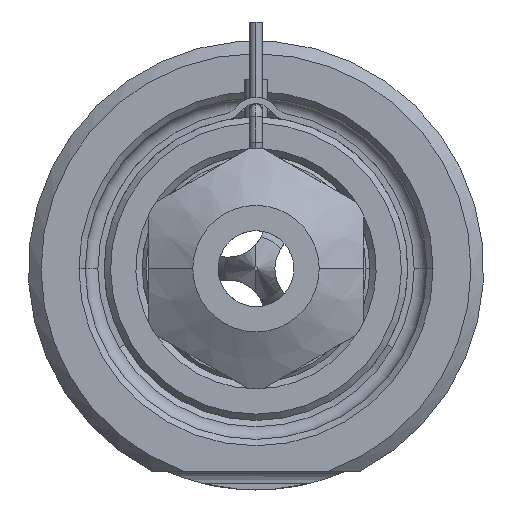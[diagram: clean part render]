
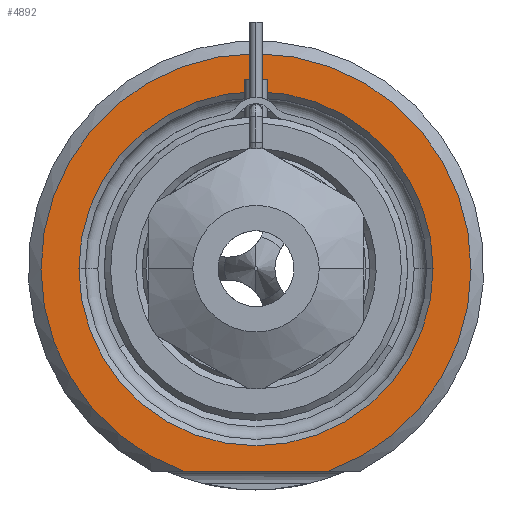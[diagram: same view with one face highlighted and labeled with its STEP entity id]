
A CAD part, front view. The second image highlights one B-rep face of the part: STEP entity #4892.
In plain terms, the highlighted planar face has unit normal (0, -1, 0).
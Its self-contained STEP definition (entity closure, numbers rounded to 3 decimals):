
#1298=CARTESIAN_POINT('',(0.,0.,0.));
#1299=DIRECTION('',(0.,-1.,0.));
#1300=DIRECTION('',(0.338,0.,-0.941));
#1301=AXIS2_PLACEMENT_3D('',#1298,#1299,#1300);
#1322=DIRECTION('',(1.,0.,0.));
#1323=VECTOR('',#1322,11.489);
#1324=CARTESIAN_POINT('',(-5.745,0.,-16.));
#1325=LINE('',#1324,#1323);
#1326=CARTESIAN_POINT('',(0.,0.,0.));
#1327=DIRECTION('',(0.,1.,0.));
#1328=DIRECTION('',(-1.,0.,0.));
#1329=AXIS2_PLACEMENT_3D('',#1326,#1327,#1328);
#1331=CARTESIAN_POINT('',(0.,0.,0.));
#1332=DIRECTION('',(0.,1.,0.));
#1333=DIRECTION('',(1.,0.,0.));
#1334=AXIS2_PLACEMENT_3D('',#1331,#1332,#1333);
#3055=CARTESIAN_POINT('',(-14.,0.,0.));
#3056=CARTESIAN_POINT('',(14.,0.,0.));
#3057=VERTEX_POINT('',#3055);
#3058=VERTEX_POINT('',#3056);
#3095=CARTESIAN_POINT('',(-5.745,0.,-16.));
#3096=CARTESIAN_POINT('',(5.745,0.,-16.));
#3097=VERTEX_POINT('',#3095);
#3098=VERTEX_POINT('',#3096);
#4877=CARTESIAN_POINT('',(0.,0.,0.));
#4878=DIRECTION('',(0.,-1.,0.));
#4879=DIRECTION('',(1.,0.,0.));
#4880=AXIS2_PLACEMENT_3D('',#4877,#4878,#4879);
#4881=PLANE('',#4880);
#4882=ORIENTED_EDGE('',*,*,#4809,.F.);
#4883=ORIENTED_EDGE('',*,*,#4869,.F.);
#4884=EDGE_LOOP('',(#4882,#4883));
#4885=FACE_OUTER_BOUND('',#4884,.F.);
#4887=ORIENTED_EDGE('',*,*,#4886,.F.);
#4889=ORIENTED_EDGE('',*,*,#4888,.F.);
#4890=EDGE_LOOP('',(#4887,#4889));
#4891=FACE_BOUND('',#4890,.F.);
#4892=ADVANCED_FACE('',(#4885,#4891),#4881,.T.);
#1302=CIRCLE('',#1301,17.);
#1330=CIRCLE('',#1329,14.);
#1335=CIRCLE('',#1334,14.);
#4809=EDGE_CURVE('',#3097,#3098,#1325,.T.);
#4869=EDGE_CURVE('',#3098,#3097,#1302,.T.);
#4886=EDGE_CURVE('',#3057,#3058,#1330,.T.);
#4888=EDGE_CURVE('',#3058,#3057,#1335,.T.);
